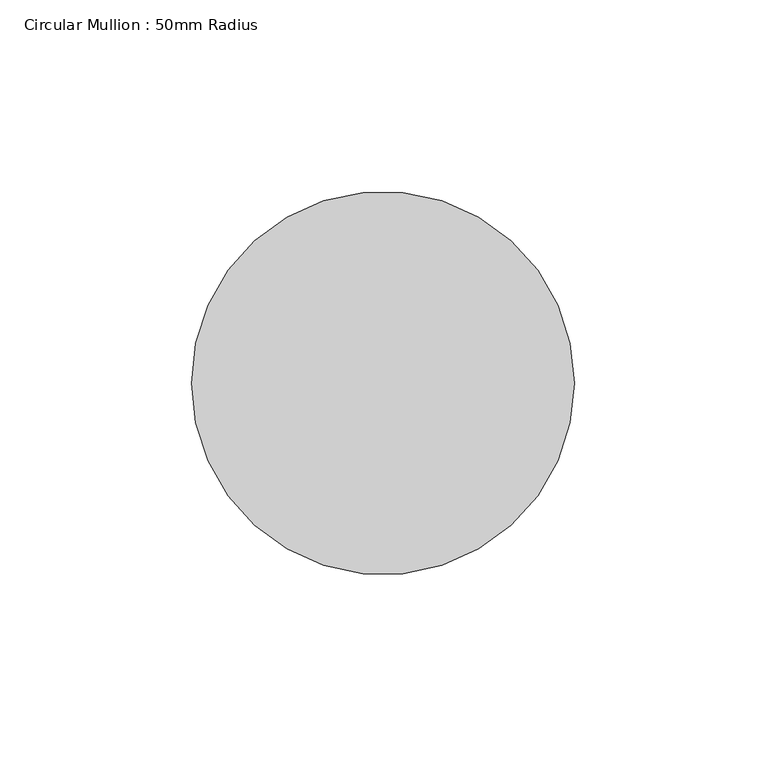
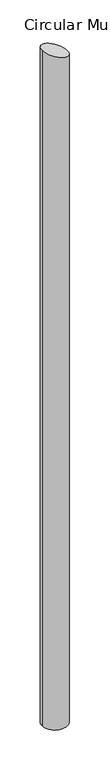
"""IFC4 building model written with IfcOpenShell, lengths in millimetres: member geometry, Circular Mullion : 50mm Radius."""

import ifcopenshell
import ifcopenshell.guid

model = None  # the IFC model being written
_history = None  # IfcOwnerHistory: only IFC2X3 demands one
_inside = {}  # id of a spatial element -> (the spatial element, [elements in it])
_under = {}  # id of a project, library or spatial element -> (it, [spatial elements below it])
_declared = {}  # id of a project -> (the project, [libraries it declares])
_typed = {}  # id of a type object -> (the type object, [elements of that type])
_made_of = {}  # id of a material, layer set ... -> (it, [elements and type objects made of it])


def new_model(schema):
    """Start an empty IFC model of exactly this schema.

    Asked for "IFC4X3", IfcOpenShell would pick the latest addendum, in which some entities
    have other attributes; the version numbers below select the first issue.
    IFC2X3 requires an IfcOwnerHistory on every rooted entity: one is made here for all.
    """
    global model, _history
    if schema == "IFC4X3":
        model = ifcopenshell.file(schema_version=(4, 3, 0, 0))
    else:
        model = ifcopenshell.file(schema=schema)
    _inside.clear()
    _under.clear()
    _declared.clear()
    _typed.clear()
    _made_of.clear()
    _history = None
    if model.schema == "IFC2X3":
        org = make("IfcOrganization", Name="unknown")
        user = make(
            "IfcPersonAndOrganization",
            ThePerson=make("IfcPerson", FamilyName="unknown"),
            TheOrganization=org,
        )
        app = make(
            "IfcApplication",
            ApplicationDeveloper=org,
            Version="unknown",
            ApplicationFullName="unknown",
            ApplicationIdentifier="unknown",
        )
        _history = make(
            "IfcOwnerHistory",
            OwningUser=user,
            OwningApplication=app,
            ChangeAction="ADDED",
            CreationDate=0,
        )
    return model


def make(cls, **values):
    """One entity of the class cls with the attributes given. An attribute that is None is left unset."""
    return model.create_entity(
        cls, **{name: value for name, value in values.items() if value is not None}
    )


def rooted(cls, **values):
    """An entity with a GlobalId (a new one), such as an element, a storey or a relation."""
    return make(cls, GlobalId=ifcopenshell.guid.new(), OwnerHistory=_history, **values)


def si_unit(unit_type, name, prefix=None):
    """IfcSIUnit, for example si_unit("LENGTHUNIT", "METRE", prefix="MILLI")."""
    return make("IfcSIUnit", UnitType=unit_type, Prefix=prefix, Name=name)


def assignment(units):
    """IfcUnitAssignment: the units of a project."""
    return None if units is None else make("IfcUnitAssignment", Units=units)


def point(xyz):
    """IfcCartesianPoint."""
    return None if xyz is None else make("IfcCartesianPoint", Coordinates=xyz)


def direction(xyz):
    """IfcDirection."""
    return None if xyz is None else make("IfcDirection", DirectionRatios=xyz)


def frame(location, z_axis=None, x_axis=None):
    """IfcAxis2Placement3D, a coordinate frame: its origin and axes. An axis left out is left unset."""
    return make(
        "IfcAxis2Placement3D",
        Location=point(location),
        Axis=direction(z_axis),
        RefDirection=direction(x_axis),
    )


def origin():
    """The frame at (0, 0, 0) with its axes left unset."""
    return frame((0.0, 0.0, 0.0))


def place(relative_to, where):
    """IfcLocalPlacement: puts the frame where relative to a parent placement (None: the world)."""
    return make(
        "IfcLocalPlacement", PlacementRelTo=relative_to, RelativePlacement=where
    )


def context(
    kind, dimensions, precision=None, world=None, true_north=None, identifier=None
):
    """IfcGeometricRepresentationContext, for example the 3D "Model" context."""
    return make(
        "IfcGeometricRepresentationContext",
        ContextIdentifier=identifier,
        ContextType=kind,
        CoordinateSpaceDimension=dimensions,
        Precision=precision,
        WorldCoordinateSystem=world,
        TrueNorth=true_north,
    )


def project(units=None, contexts=None):
    """IfcProject with its units and contexts."""
    return rooted(
        "IfcProject",
        Name="project",
        RepresentationContexts=contexts,
        UnitsInContext=assignment(units),
    )


def spatial(cls, under=None, at=None, **own):
    """A site, building, storey or space (cls), placed at a placement, below another one or the project."""
    s = rooted(cls, ObjectPlacement=at, **own)
    if under is not None:
        _under.setdefault(under.id(), (under, []))[1].append(s)
    return s


def circle_curve(where, radius):
    """IfcCircle in the frame where."""
    return make("IfcCircle", Position=where, Radius=radius)


def ellipse_curve(where, semi_axis1, semi_axis2):
    """IfcEllipse in the frame where."""
    return make(
        "IfcEllipse", Position=where, SemiAxis1=semi_axis1, SemiAxis2=semi_axis2
    )


def shape(context_of_items, identifier, shape_type, items):
    """IfcShapeRepresentation: the items that make up one representation, for example the "Body"."""
    return make(
        "IfcShapeRepresentation",
        ContextOfItems=context_of_items,
        RepresentationIdentifier=identifier,
        RepresentationType=shape_type,
        Items=items,
    )


def source(mapping_origin, context_of_items, identifier, shape_type, items):
    """IfcRepresentationMap: a shape defined once, which mapped items show again and again."""
    return make(
        "IfcRepresentationMap",
        MappingOrigin=mapping_origin,
        MappedRepresentation=shape(context_of_items, identifier, shape_type, items),
    )


def transform(
    local_origin,
    x_axis=None,
    y_axis=None,
    z_axis=None,
    scale=None,
    scale2=None,
    scale3=None,
    uniform=True,
):
    """IfcCartesianTransformationOperator3D, or its non-uniform kind. x_axis, y_axis, z_axis: its Axis1, 2, 3."""
    if uniform:
        return make(
            "IfcCartesianTransformationOperator3D",
            Axis1=direction(x_axis),
            Axis2=direction(y_axis),
            LocalOrigin=point(local_origin),
            Scale=scale,
            Axis3=direction(z_axis),
        )
    return make(
        "IfcCartesianTransformationOperator3DnonUniform",
        Axis1=direction(x_axis),
        Axis2=direction(y_axis),
        LocalOrigin=point(local_origin),
        Scale=scale,
        Axis3=direction(z_axis),
        Scale2=scale2,
        Scale3=scale3,
    )


def mapped(mapping_source, mapping_target):
    """IfcMappedItem: shows the shape of a source again, moved by a transform."""
    return make(
        "IfcMappedItem", MappingSource=mapping_source, MappingTarget=mapping_target
    )


def made_of(thing, what):
    """Note that an element or type object is made of a material, layer set ...; save() writes the relation."""
    if what is not None:
        _made_of.setdefault(what.id(), (what, []))[1].append(thing)
    return thing


def element(
    cls,
    number,
    at=None,
    inside=None,
    cuts=None,
    type_object=None,
    material=None,
    context=None,
    identifier="Body",
    shape_type=None,
    held_by="IfcProductDefinitionShape",
    body=None,
    shapes=None,
    **own,
):
    """One element of the class cls, such as IfcWall. Its Tag is "e" and its number.

    at: its placement. inside: the storey or other place that contains it. cuts: it is an
    opening in that element (IfcRelVoidsElement). A single representation is given by context,
    identifier, shape_type and body (its items); several are given by shapes. held_by: the class
    of the entity that holds the representations. save() writes the other relations.
    """
    e = rooted(cls, Tag="e%d" % number, ObjectPlacement=at, **own)
    if body is not None:
        shapes = [shape(context, identifier, shape_type, body)]
    if shapes is not None:
        e.Representation = make(held_by, Representations=shapes)
    if inside is not None:
        _inside.setdefault(inside.id(), (inside, []))[1].append(e)
    if cuts is not None:
        rooted(
            "IfcRelVoidsElement", RelatingBuildingElement=cuts, RelatedOpeningElement=e
        )
    if type_object is not None:
        _typed.setdefault(type_object.id(), (type_object, []))[1].append(e)
    return made_of(e, material)


def aggregate(whole, parts):
    """IfcRelAggregates: a whole, such as a stair, and the parts it consists of."""
    return rooted("IfcRelAggregates", RelatingObject=whole, RelatedObjects=parts)


def save(model, path):
    """Write the relations noted so far, then the file.

    IfcRelAggregates (storeys below a building ...), IfcRelContainedInSpatialStructure (elements
    in a storey), IfcRelDefinesByType, IfcRelAssociatesMaterial and IfcRelDeclares: one each for
    every whole, place, type object, material and project.
    """
    for whole, parts in _under.values():
        aggregate(whole, parts)
    for where, things in _inside.values():
        rooted(
            "IfcRelContainedInSpatialStructure",
            RelatedElements=things,
            RelatingStructure=where,
        )
    for kind, things in _typed.values():
        rooted("IfcRelDefinesByType", RelatedObjects=things, RelatingType=kind)
    for what, things in _made_of.values():
        rooted("IfcRelAssociatesMaterial", RelatedObjects=things, RelatingMaterial=what)
    for by, libraries in _declared.values():
        rooted("IfcRelDeclares", RelatingContext=by, RelatedDefinitions=libraries)
    model.write(path)


def plane_surface(at):
    """IfcPlane: the flat surface through the origin of the frame at, square to its z axis."""
    return make("IfcPlane", Position=at)


def cylinder_surface(at, radius):
    """IfcCylindricalSurface: all points at the distance radius from the z axis of the frame at."""
    return make("IfcCylindricalSurface", Position=at, Radius=radius)


def advanced_brep(points, edges, surfaces, faces):
    """IfcAdvancedBrep: a solid bounded by faces that lie on surfaces and meet in shared edges.

    An edge is (start, end): straight between two places in points (the first is 0);
    or (start, end, curve); or (start, end, curve, False) where it runs against its curve.
    A face is (place in surfaces, loops), or (place, loops, False) where it looks against
    its surface's normal. A loop lists edges by number (the first is 1), with a minus sign
    where the edge is run from its end to its start. The first loop is the outer one.
    """
    corners = [point(p) for p in points]
    vertices = [make("IfcVertexPoint", VertexGeometry=c) for c in corners]
    made = []
    for start, end, *more in edges:
        made.append(
            make(
                "IfcEdgeCurve",
                EdgeStart=vertices[start],
                EdgeEnd=vertices[end],
                EdgeGeometry=more[0] if more else make("IfcPolyline", Points=[corners[start], corners[end]]),
                SameSense=more[1] if len(more) > 1 else True,
            )
        )
    hull = []
    for where, loops, *sense in faces:
        bounds = []
        for j, loop in enumerate(loops):
            ring = [make("IfcOrientedEdge", EdgeElement=made[abs(k) - 1], Orientation=k > 0) for k in loop]
            bounds.append(
                make(
                    "IfcFaceOuterBound" if j == 0 else "IfcFaceBound",
                    Bound=make("IfcEdgeLoop", EdgeList=ring),
                    Orientation=True,
                )
            )
        hull.append(make("IfcAdvancedFace", Bounds=bounds, FaceSurface=surfaces[where], SameSense=sense[0] if sense else True))
    return make("IfcAdvancedBrep", Outer=make("IfcClosedShell", CfsFaces=hull))


def circular_mullion_50mm_radius_b58c95c8(model_context):
    return source(origin(), model_context, "Body", "AdvancedBrep", [
        advanced_brep(
        [(0.0, 0.0, -2800.0), (-100.0, 0.0, -2800.0), (-100.0, 0.0, 35.4118573), (0.0, 0.0, 0.0)],
        [
            (0, 1, circle_curve(frame((-50.0, 0.0, -2800.0), z_axis=(0.0, 0.0, -1.0), x_axis=(1.0, 0.0, 0.0)), 50.0)),
            (1, 0, circle_curve(frame((-50.0, 0.0, -2800.0), z_axis=(0.0, 0.0, -1.0), x_axis=(1.0, 0.0, 0.0)), 50.0)),
            (2, 3, ellipse_curve(frame((-50.0, 0.0, 17.7059286), z_axis=(-0.3338068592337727, 0.0, -0.9426414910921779), x_axis=(-0.942641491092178, 0.0, 0.3338068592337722)), 53.042435, 50.0)),
            (3, 0),
            (1, 2),
            (3, 2, ellipse_curve(frame((-50.0, 0.0, 17.7059286), z_axis=(-0.3338068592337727, 0.0, -0.9426414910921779), x_axis=(-0.942641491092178, 0.0, 0.3338068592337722)), 53.042435, 50.0)),
        ],
        [
            plane_surface(frame((0.0, -100.0, -2800.0), z_axis=(0.0, 0.0, -1.0), x_axis=(-1.0, 0.0, 0.0))),
            cylinder_surface(frame((-50.0, 0.0, 0.0), z_axis=(0.0, 0.0, 1.0), x_axis=(1.0, 0.0, 0.0)), 50.0),
            plane_surface(frame((0.0, 304.8, 0.0), z_axis=(0.3338068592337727, 0.0, 0.9426414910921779), x_axis=(0.9426414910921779, 0.0, -0.3338068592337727))),
        ],
        [
            (0, [[1, 2]]),
            (1, [[3, 4, -2, 5]]),
            (1, [[6, -5, -1, -4]]),
            (2, [[-3, -6]]),
        ],
    ),
    ])


if __name__ == "__main__":
    model = new_model("IFC4")
    model_context = context("Model", 3, world=origin())
    ifc_project = project(units=[si_unit("LENGTHUNIT", "METRE", prefix="MILLI")], contexts=[model_context])
    site = spatial("IfcSite", under=ifc_project)
    building = spatial("IfcBuilding", under=site)
    placement = place(None, origin())
    circular_mullion_50mm_radius_shape = circular_mullion_50mm_radius_b58c95c8(model_context)
    element("IfcMember", 1, ObjectType="Circular Mullion : 50mm Radius", at=placement, inside=building, context=model_context, shape_type="MappedRepresentation", body=[
        mapped(circular_mullion_50mm_radius_shape, transform((0.0, 0.0, 0.0), x_axis=(1.0, 0.0, 0.0), y_axis=(0.0, 1.0, 0.0), z_axis=(0.0, 0.0, 1.0))),
    ])
    save(model, "model.ifc")
